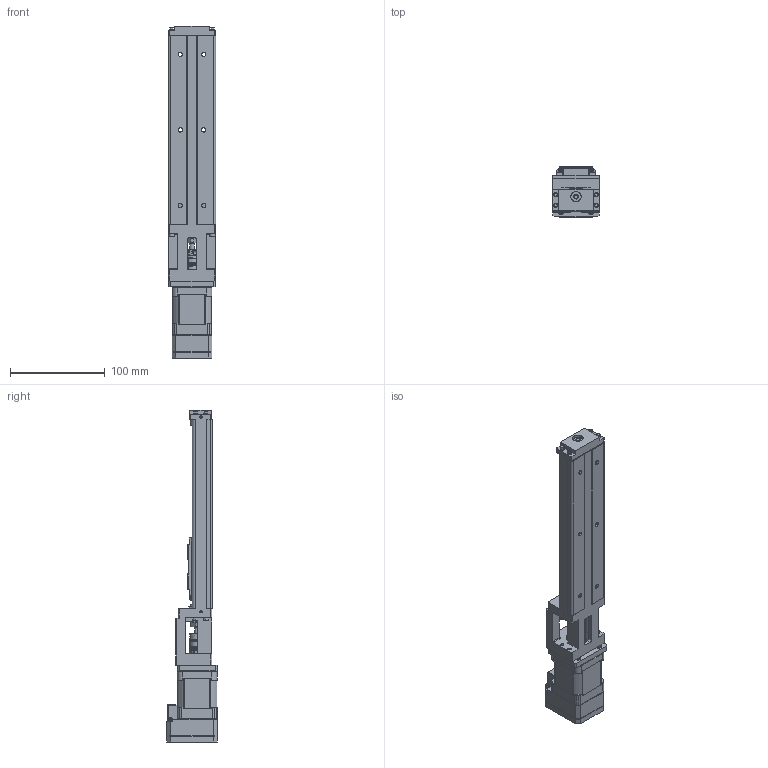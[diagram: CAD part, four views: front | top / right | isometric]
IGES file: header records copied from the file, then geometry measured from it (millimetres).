
Start section: SolidWorks IGES file using analytic representation for surfaces
Global section: file name: \\MYODRIVE\Public\CAD Files\Integrated-Actuators\PA-Series\PA26\PA26-A-02-110-S-00A0-17L30-X.IGS; native system: SolidWorks 2015; preprocessor: SolidWorks 2015; author: RENDER; date: 150106.093115; units: millimetre
Bounding box: 50 x 53 x 351.3 mm (x, y, z)
Surface area: 107521.2 mm2 (no closed solid volume)
Topology: 0 solids, 0 shells, 1690 faces, 19298 edges, 19257 vertices
Faces by surface type: bspline 1042, revolution 648
